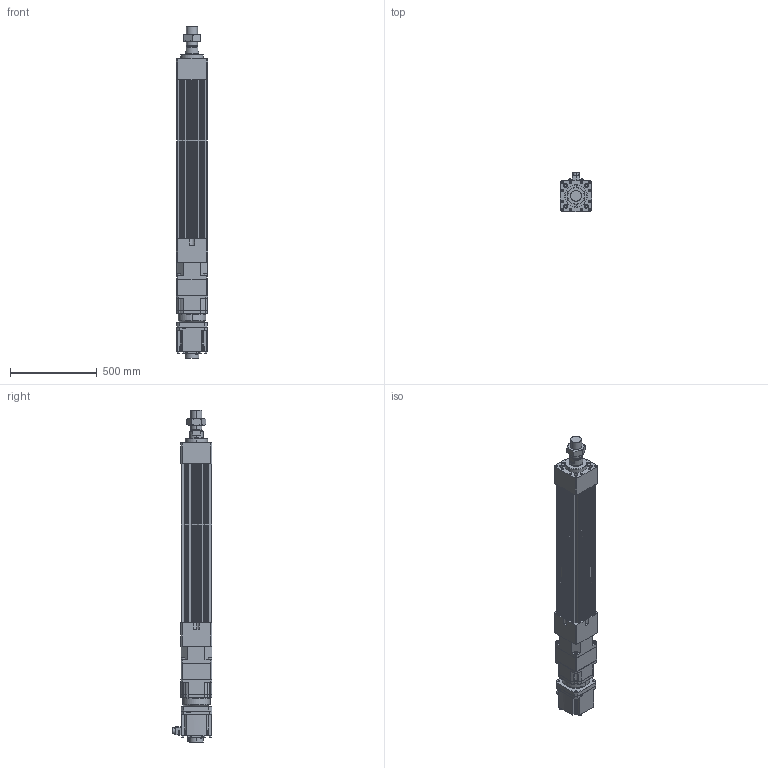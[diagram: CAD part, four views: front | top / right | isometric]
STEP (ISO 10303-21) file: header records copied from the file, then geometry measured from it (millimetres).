
FILE_DESCRIPTION (( 'STEP AP203' ), '1' );
FILE_NAME ('HES180HS-S600-W050G00-M.STEP', '2023-02-01T09:51:12', ( 'tms' ), ( '' ), 'SwSTEP 2.0', 'SolidWorks 2013', '' );
FILE_SCHEMA (( 'CONFIG_CONTROL_DESIGN' ));
Length unit declared in the file: millimetre
Products named in the file (9): HG-SR502; M64X2.0P; HES180 ROD M ST600; AB180-003[HG-SR702B]; AB1801; HES180-S600-G180; P0403600401; P1301600001; HES180HS-S600-W050G00-M
Assembly tree (8 placements, depth 3):
  HES180HS-S600-W050G00-M
    HES180-S600-G180
    HES180 ROD M ST600
    M64X2.0P
    AB180-003[HG-SR702B]
      AB1801
      P1301600001
      P0403600401
    HG-SR502
Bounding box: 180 x 230.85 x 1917 mm (x, y, z)
Volume: 28383679.8 mm3; surface area: 2707078 mm2
Topology: 4 solids, 23 shells, 1534 faces, 3945 edges, 2546 vertices
Faces by surface type: cylinder 693, plane 600, cone 174, bspline 63, torus 4
Entity records: 55246 total; most frequent: CARTESIAN_POINT 16431, DIRECTION 8177, ORIENTED_EDGE 7750, EDGE_CURVE 3899, AXIS2_PLACEMENT_3D 3072, VERTEX_POINT 2546, LINE 2033, VECTOR 2033
